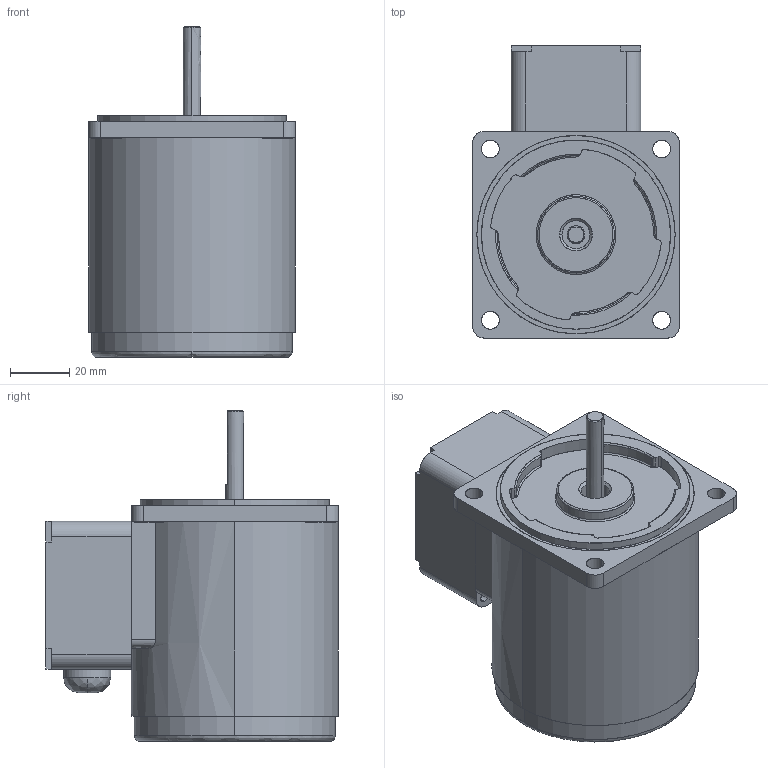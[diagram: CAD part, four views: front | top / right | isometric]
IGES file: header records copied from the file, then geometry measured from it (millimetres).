
Start section: SolidWorks IGES file using analytic representation for surfaces
Bounding box: 70 x 99 x 112 mm (x, y, z)
Surface area: 65507.1 mm2 (no closed solid volume)
Topology: 0 solids, 0 shells, 196 faces, 3574 edges, 3573 vertices
Faces by surface type: revolution 100, bspline 96
